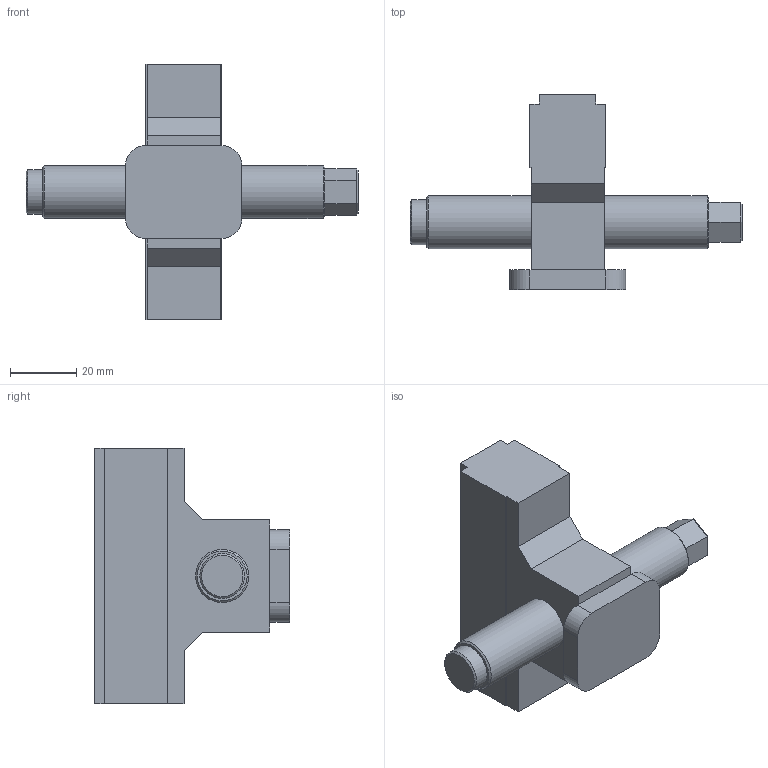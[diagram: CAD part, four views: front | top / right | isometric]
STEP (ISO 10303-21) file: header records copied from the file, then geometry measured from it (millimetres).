
FILE_DESCRIPTION (( 'STEP AP214' ), '1' );
FILE_NAME ('48085-TG7717.STEP', '2020-03-24T14:37:49', ( '' ), ( '' ), 'SwSTEP 2.0', 'SolidWorks 2019', '' );
FILE_SCHEMA (( 'AUTOMOTIVE_DESIGN' ));
Length unit declared in the file: millimetre
Products named in the file (1): 48085-TG7717
Bounding box: 100 x 58.8 x 77 mm (x, y, z)
Volume: 86092.8 mm3; surface area: 16972.3 mm2
Topology: 1 solids, 1 shells, 67 faces, 163 edges, 103 vertices
Faces by surface type: plane 57, cylinder 7, cone 3
Full cylindrical faces by diameter (mm): 13.5 x1, 16 x2
Entity records: 2410 total; most frequent: CARTESIAN_POINT 324, ORIENTED_EDGE 310, DIRECTION 308, EDGE_CURVE 155, LINE 138, VECTOR 138, VERTEX_POINT 101, AXIS2_PLACEMENT_3D 85
